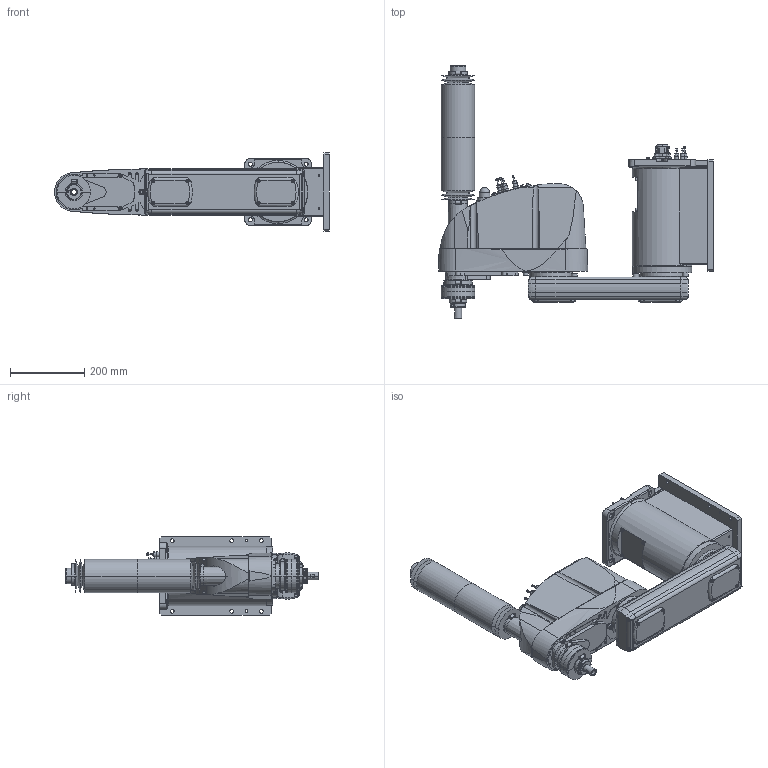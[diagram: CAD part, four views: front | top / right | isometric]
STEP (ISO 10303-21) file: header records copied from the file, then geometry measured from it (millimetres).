
FILE_DESCRIPTION( ( '' ), '1' );
FILE_NAME( '//expscmdclustefs.cadenas.external/client_exchange/iodir/jobs/output/wkb51542035_no0/STEP/G6_553DW_2_03.stp', '2012-11-23T11:18:33', ( '' ), ( '' ), ' ', ' ', ' ' );
FILE_SCHEMA( ( 'CONFIG_CONTROL_DESIGN' ) );
Length unit declared in the file: millimetre
Products named in the file (8): 1; 2; 3; 4; 5; 6; 7; 8
Bounding box: 740 x 679.5 x 210 mm (x, y, z)
Volume: 23288861 mm3; surface area: 1220920.7 mm2
Topology: 8 solids, 8 shells, 1857 faces, 4500 edges, 2860 vertices
Faces by surface type: plane 886, cylinder 652, cone 278, torus 40, sphere 1
Entity records: 58006 total; most frequent: CARTESIAN_POINT 13210, DIRECTION 9610, ORIENTED_EDGE 8940, EDGE_CURVE 4470, AXIS2_PLACEMENT_3D 3494, VERTEX_POINT 2860, LINE 2622, VECTOR 2622
